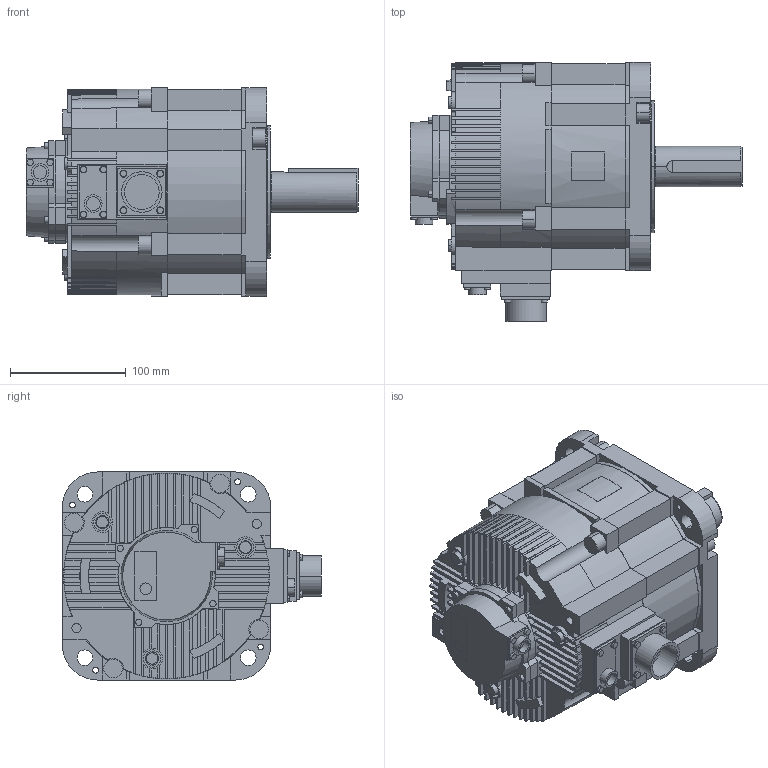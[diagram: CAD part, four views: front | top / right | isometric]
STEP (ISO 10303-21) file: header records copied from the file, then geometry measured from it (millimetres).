
FILE_DESCRIPTION( (''), '2;1');
FILE_NAME ('SGMXG-30AUA6CC2.stp','2022-03-02T11:33:18',(''),(''),'spGate 15.6.6','','');
FILE_SCHEMA (('AUTOMOTIVE_DESIGN'));
Length unit declared in the file: millimetre
Products named in the file (3): Assembly; SGMXG-30AUA6CC2-prt0; SGMXG-30AUA6CC2-prt1
Assembly tree (2 placements, depth 2):
  Assembly
    SGMXG-30AUA6CC2-prt0
    SGMXG-30AUA6CC2-prt1
Bounding box: 287.2 x 224 x 180 mm (x, y, z)
Volume: 4860780.2 mm3; surface area: 255477.7 mm2
Topology: 2 solids, 2 shells, 848 faces, 2305 edges, 1528 vertices
Faces by surface type: plane 550, cylinder 242, bspline 56
Entity records: 45249 total; most frequent: CARTESIAN_POINT 5457, ORIENTED_EDGE 4610, DIRECTION 4464, COLOUR_RGB 3155, PRESENTATION_STYLE_ASSIGNMENT 3155, STYLED_ITEM 3155, EDGE_CURVE 2305, DRAUGHTING_PRE_DEFINED_CURVE_FONT 2305
